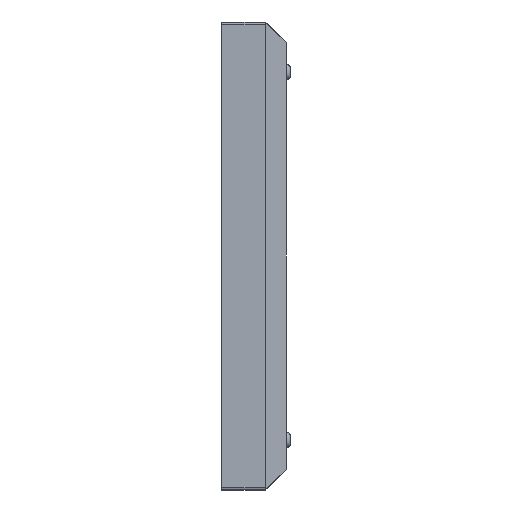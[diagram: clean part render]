
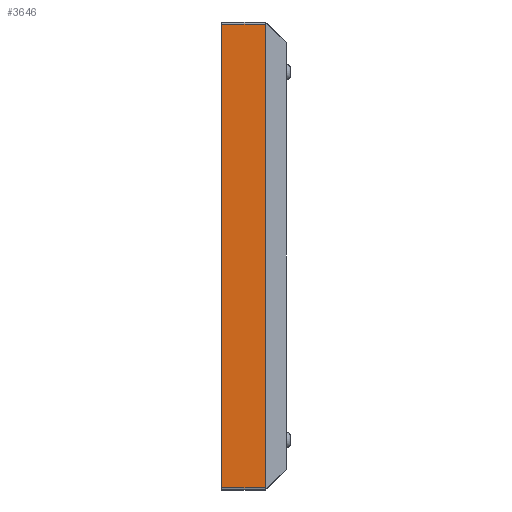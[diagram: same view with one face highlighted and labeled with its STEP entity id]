
A CAD part, left-side view. The second image highlights one B-rep face of the part: STEP entity #3646.
In plain terms, the highlighted planar face has unit normal (-1, 0, 0).
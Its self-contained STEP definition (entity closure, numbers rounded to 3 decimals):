
#255 = VERTEX_POINT ( 'NONE', #1058 ) ;
#402 = CARTESIAN_POINT ( 'NONE',  ( -100., -15.5, -56.1 ) ) ;
#595 = CARTESIAN_POINT ( 'NONE',  ( -100., -10.5, 56.1 ) ) ;
#754 = VECTOR ( 'NONE', #3099, 1000. ) ;
#968 = ORIENTED_EDGE ( 'NONE', *, *, #2379, .T. ) ;
#1058 = CARTESIAN_POINT ( 'NONE',  ( -100., 0., -55.6 ) ) ;
#1061 = VECTOR ( 'NONE', #2603, 1000. ) ;
#1365 = VERTEX_POINT ( 'NONE', #1609 ) ;
#1433 = AXIS2_PLACEMENT_3D ( 'NONE', #402, #3542, #1887 ) ;
#1609 = CARTESIAN_POINT ( 'NONE',  ( -100., 0., 55.6 ) ) ;
#1741 = VECTOR ( 'NONE', #2064, 1000. ) ;
#1887 = DIRECTION ( 'NONE',  ( 0., 0., 1. ) ) ;
#1891 = EDGE_LOOP ( 'NONE', ( #2061, #968, #2599, #2710 ) ) ;
#1942 = VECTOR ( 'NONE', #3672, 1000. ) ;
#2032 = LINE ( 'NONE', #2042, #1942 ) ;
#2042 = CARTESIAN_POINT ( 'NONE',  ( -100., -15.5, -55.6 ) ) ;
#2061 = ORIENTED_EDGE ( 'NONE', *, *, #2277, .F. ) ;
#2064 = DIRECTION ( 'NONE',  ( 0., 1., 0. ) ) ;
#2065 = CARTESIAN_POINT ( 'NONE',  ( -100., -10.5, -55.6 ) ) ;
#2277 = EDGE_CURVE ( 'NONE', #255, #1365, #2288, .T. ) ;
#2288 = LINE ( 'NONE', #2876, #754 ) ;
#2335 = FACE_OUTER_BOUND ( 'NONE', #1891, .T. ) ;
#2379 = EDGE_CURVE ( 'NONE', #255, #2917, #2032, .T. ) ;
#2405 = EDGE_CURVE ( 'NONE', #2917, #2472, #3486, .T. ) ;
#2434 = EDGE_CURVE ( 'NONE', #2472, #1365, #2505, .T. ) ;
#2472 = VERTEX_POINT ( 'NONE', #2898 ) ;
#2505 = LINE ( 'NONE', #2885, #1741 ) ;
#2599 = ORIENTED_EDGE ( 'NONE', *, *, #2405, .T. ) ;
#2603 = DIRECTION ( 'NONE',  ( 0., 0., 1. ) ) ;
#2710 = ORIENTED_EDGE ( 'NONE', *, *, #2434, .T. ) ;
#2876 = CARTESIAN_POINT ( 'NONE',  ( -100., 0., -56.1 ) ) ;
#2885 = CARTESIAN_POINT ( 'NONE',  ( -100., -15.5, 55.6 ) ) ;
#2898 = CARTESIAN_POINT ( 'NONE',  ( -100., -10.5, 55.6 ) ) ;
#2917 = VERTEX_POINT ( 'NONE', #2065 ) ;
#3099 = DIRECTION ( 'NONE',  ( 0., 0., 1. ) ) ;
#3256 = PLANE ( 'NONE',  #1433 ) ;
#3486 = LINE ( 'NONE', #595, #1061 ) ;
#3542 = DIRECTION ( 'NONE',  ( -1., 0., 0. ) ) ;
#3646 = ADVANCED_FACE ( 'NONE', ( #2335 ), #3256, .T. ) ;
#3672 = DIRECTION ( 'NONE',  ( 0., -1., 0. ) ) ;
